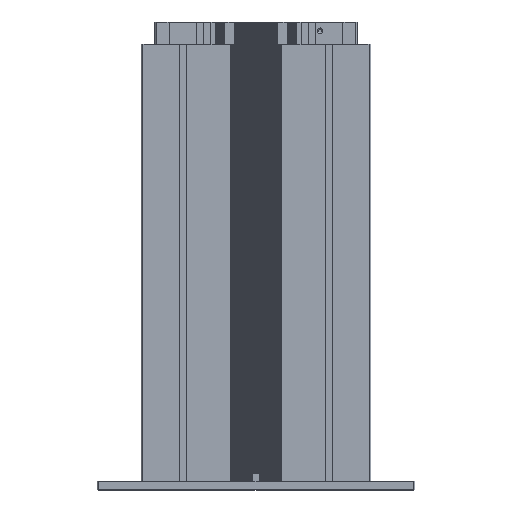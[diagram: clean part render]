
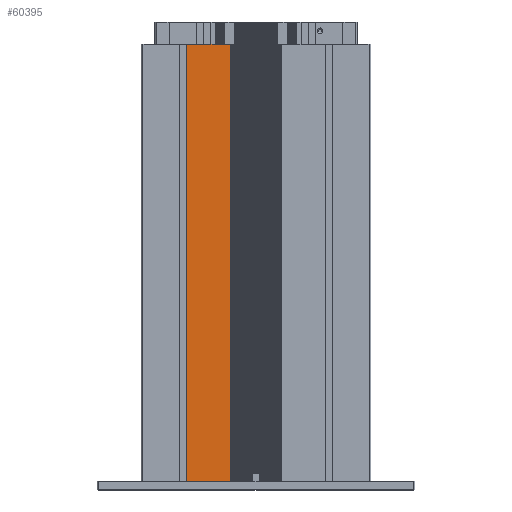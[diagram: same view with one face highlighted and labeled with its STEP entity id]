
A CAD part, top view. The second image highlights one B-rep face of the part: STEP entity #60395.
In plain terms, the highlighted planar face has unit normal (0, 0, 1).
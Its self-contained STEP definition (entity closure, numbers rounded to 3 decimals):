
#397 = ORIENTED_EDGE ( 'NONE', *, *, #42877, .F. ) ;
#2305 = ORIENTED_EDGE ( 'NONE', *, *, #31615, .T. ) ;
#2968 = VECTOR ( 'NONE', #75365, 1000. ) ;
#5920 = CARTESIAN_POINT ( 'NONE',  ( 78.5, 495., 30. ) ) ;
#7653 = VERTEX_POINT ( 'NONE', #62036 ) ;
#11346 = ORIENTED_EDGE ( 'NONE', *, *, #45026, .T. ) ;
#11735 = EDGE_LOOP ( 'NONE', ( #78494, #397, #2305, #11346 ) ) ;
#14622 = AXIS2_PLACEMENT_3D ( 'NONE', #24075, #66860, #30151 ) ;
#17759 = VECTOR ( 'NONE', #28350, 1000. ) ;
#24075 = CARTESIAN_POINT ( 'NONE',  ( -78.5, 495., 30. ) ) ;
#24817 = VECTOR ( 'NONE', #39415, 1000. ) ;
#28350 = DIRECTION ( 'NONE',  ( 1., 0., 0. ) ) ;
#28591 = LINE ( 'NONE', #45306, #24817 ) ;
#28934 = VERTEX_POINT ( 'NONE', #5920 ) ;
#30151 = DIRECTION ( 'NONE',  ( 1., 0., 0. ) ) ;
#30483 = CARTESIAN_POINT ( 'NONE',  ( 29.2, 0., 30. ) ) ;
#31615 = EDGE_CURVE ( 'NONE', #7653, #61718, #52028, .T. ) ;
#32524 = CARTESIAN_POINT ( 'NONE',  ( 78.5, 495., 30. ) ) ;
#39415 = DIRECTION ( 'NONE',  ( 1., 0., 0. ) ) ;
#42215 = PLANE ( 'NONE',  #14622 ) ;
#42877 = EDGE_CURVE ( 'NONE', #7653, #28934, #28591, .T. ) ;
#45026 = EDGE_CURVE ( 'NONE', #61718, #66895, #50299, .T. ) ;
#45306 = CARTESIAN_POINT ( 'NONE',  ( 123.5, 495., 30. ) ) ;
#47970 = LINE ( 'NONE', #32524, #2968 ) ;
#50299 = LINE ( 'NONE', #71185, #17759 ) ;
#52028 = LINE ( 'NONE', #67583, #53949 ) ;
#53853 = EDGE_CURVE ( 'NONE', #66895, #28934, #47970, .T. ) ;
#53949 = VECTOR ( 'NONE', #73698, 1000. ) ;
#60395 = ADVANCED_FACE ( 'NONE', ( #69038 ), #42215, .T. ) ;
#61718 = VERTEX_POINT ( 'NONE', #30483 ) ;
#62036 = CARTESIAN_POINT ( 'NONE',  ( 29.2, 495., 30. ) ) ;
#63606 = CARTESIAN_POINT ( 'NONE',  ( 78.5, 0., 30. ) ) ;
#66860 = DIRECTION ( 'NONE',  ( 0., 0., 1. ) ) ;
#66895 = VERTEX_POINT ( 'NONE', #63606 ) ;
#67583 = CARTESIAN_POINT ( 'NONE',  ( 29.2, 495., 30. ) ) ;
#69038 = FACE_OUTER_BOUND ( 'NONE', #11735, .T. ) ;
#71185 = CARTESIAN_POINT ( 'NONE',  ( -78.5, 0., 30. ) ) ;
#73698 = DIRECTION ( 'NONE',  ( 0., -1., 0. ) ) ;
#75365 = DIRECTION ( 'NONE',  ( 0., 1., 0. ) ) ;
#78494 = ORIENTED_EDGE ( 'NONE', *, *, #53853, .T. ) ;
